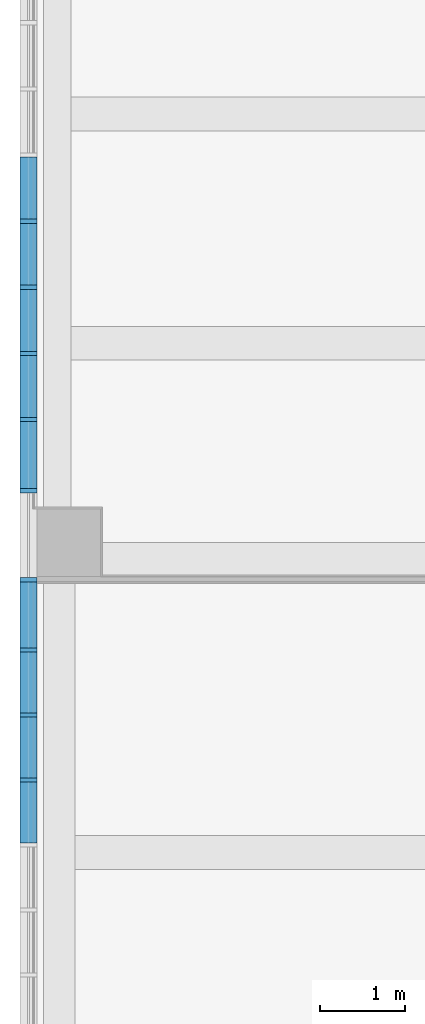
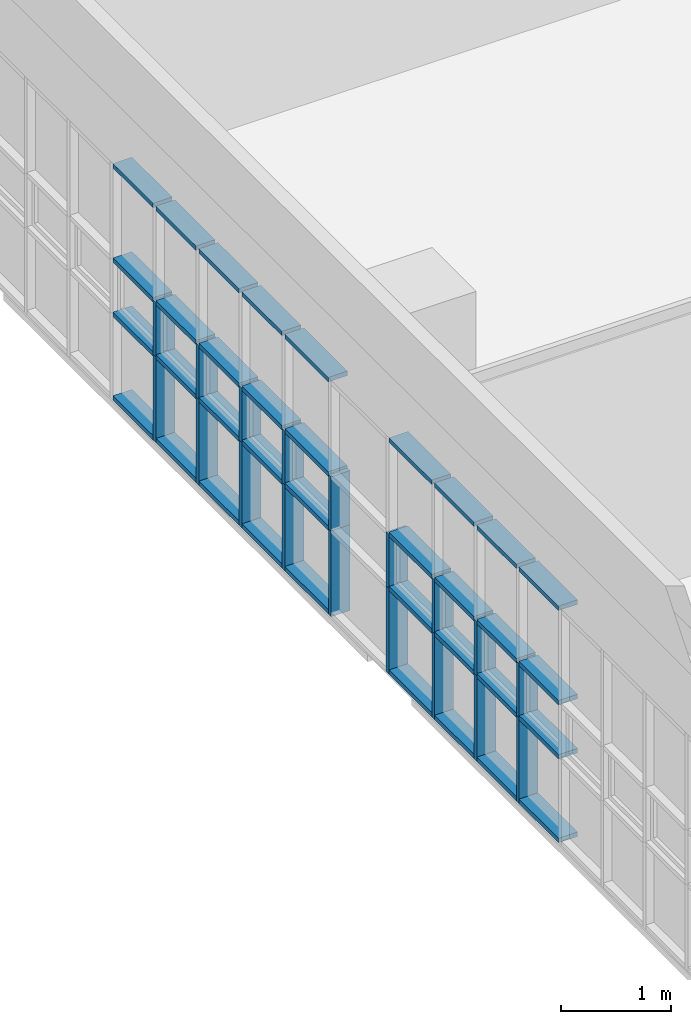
# One storey, part 18 of 76: 54 members, 1 element without a shape of its own.
"""IFC2X3 building model written with IfcOpenShell, lengths in millimetres."""

from ifc_helpers import new_model, entity, si_unit, converted_unit, derived_unit, direction, frame, origin, origin_2d_with_axis, place, context, subcontext, project, spatial, rectangle, extrude, source, transform, mapped, material, type_object, type_shapes, element, aggregate, save


model = new_model("IFC2X3")

# Units and contexts
model_context = context("Model", 3, precision=0.01, world=origin(), true_north=direction((6.123031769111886e-17, 1.0)))
body_context = subcontext(model_context, "Body", "Model", "MODEL_VIEW")
ifc_project = project(units=[si_unit("LENGTHUNIT", "METRE", prefix="MILLI"), si_unit("AREAUNIT", "SQUARE_METRE"), si_unit("VOLUMEUNIT", "CUBIC_METRE"), converted_unit("PLANEANGLEUNIT", "DEGREE", entity("IfcRatioMeasure", 0.017453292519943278), si_unit("PLANEANGLEUNIT", "RADIAN"), dimensions=[0, 0, 0, 0, 0, 0, 0]), si_unit("MASSUNIT", "GRAM", prefix="KILO"), derived_unit("MASSDENSITYUNIT", [(si_unit("MASSUNIT", "GRAM", prefix="KILO"), 1), (si_unit("LENGTHUNIT", "METRE"), -3)]), derived_unit("MOMENTOFINERTIAUNIT", [(si_unit("LENGTHUNIT", "METRE"), 4)]), si_unit("TIMEUNIT", "SECOND"), si_unit("FREQUENCYUNIT", "HERTZ"), si_unit("THERMODYNAMICTEMPERATUREUNIT", "DEGREE_CELSIUS"), derived_unit("THERMALTRANSMITTANCEUNIT", [(si_unit("MASSUNIT", "GRAM", prefix="KILO"), 1), (si_unit("THERMODYNAMICTEMPERATUREUNIT", "KELVIN"), -1), (si_unit("TIMEUNIT", "SECOND"), -3)]), derived_unit("VOLUMETRICFLOWRATEUNIT", [(si_unit("LENGTHUNIT", "METRE"), 3), (si_unit("TIMEUNIT", "SECOND"), -1)]), derived_unit("MASSFLOWRATEUNIT", [(si_unit("MASSUNIT", "GRAM", prefix="KILO"), 1), (si_unit("TIMEUNIT", "SECOND"), -1)]), derived_unit("ROTATIONALFREQUENCYUNIT", [(si_unit("TIMEUNIT", "SECOND"), -1)]), si_unit("ELECTRICCURRENTUNIT", "AMPERE"), si_unit("ELECTRICVOLTAGEUNIT", "VOLT"), si_unit("POWERUNIT", "WATT"), si_unit("FORCEUNIT", "NEWTON", prefix="KILO"), si_unit("ILLUMINANCEUNIT", "LUX"), si_unit("LUMINOUSFLUXUNIT", "LUMEN"), si_unit("LUMINOUSINTENSITYUNIT", "CANDELA"), derived_unit("USERDEFINED", [(si_unit("MASSUNIT", "GRAM", prefix="KILO"), -1), (si_unit("LENGTHUNIT", "METRE"), -2), (si_unit("TIMEUNIT", "SECOND"), 3), (si_unit("LUMINOUSFLUXUNIT", "LUMEN"), 1)]), derived_unit("SOUNDPOWERUNIT", [(si_unit("MASSUNIT", "GRAM", prefix="KILO"), 1), (si_unit("LENGTHUNIT", "METRE"), 2), (si_unit("TIMEUNIT", "SECOND"), -3)]), derived_unit("SOUNDPRESSUREUNIT", [(si_unit("MASSUNIT", "GRAM", prefix="KILO"), 1), (si_unit("LENGTHUNIT", "METRE"), -1), (si_unit("TIMEUNIT", "SECOND"), -2)]), derived_unit("LINEARVELOCITYUNIT", [(si_unit("LENGTHUNIT", "METRE"), 1), (si_unit("TIMEUNIT", "SECOND"), -1)]), si_unit("PRESSUREUNIT", "PASCAL"), derived_unit("USERDEFINED", [(si_unit("LENGTHUNIT", "METRE"), -2), (si_unit("MASSUNIT", "GRAM", prefix="KILO"), 1), (si_unit("TIMEUNIT", "SECOND"), -2)]), derived_unit("LINEARFORCEUNIT", [(si_unit("MASSUNIT", "GRAM", prefix="KILO"), 1), (si_unit("LENGTHUNIT", "METRE"), 1), (si_unit("TIMEUNIT", "SECOND"), -2), (si_unit("LENGTHUNIT", "METRE"), -1)]), derived_unit("PLANARFORCEUNIT", [(si_unit("MASSUNIT", "GRAM", prefix="KILO"), 1), (si_unit("LENGTHUNIT", "METRE"), 1), (si_unit("TIMEUNIT", "SECOND"), -2), (si_unit("LENGTHUNIT", "METRE"), -2)])], contexts=[model_context])

# Site, building, storey
site_placement = place(None, frame((-14167.972527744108, -657.2125860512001, 0.0)))
site = spatial("IfcSite", under=ifc_project, at=site_placement, Name="Default", CompositionType="ELEMENT")
building_placement = place(site_placement, origin())
building = spatial("IfcBuilding", under=site, at=building_placement, Name="Sample Building", CompositionType="ELEMENT")
storey_placement = place(building_placement, frame((0.0, 0.0, 9300.0)))
storey = spatial("IfcBuildingStorey", under=building, at=storey_placement, Name="지상 3층", CompositionType="ELEMENT", Elevation=9300.000000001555)

# Curtain wall, members
curtain_wall_type = type_object("IfcCurtainWallType", Name="커튼월:CW112-스테인리스 스틸 커튼월", PredefinedType="NOTDEFINED")
curtain_wall_placement = place(storey_placement, frame((0.0, 0.0, -9300.0)))
curtain_wall = element("IfcCurtainWall", 1, at=curtain_wall_placement, inside=storey, type_object=curtain_wall_type, Name="커튼월:CW112-스테인리스 스틸 커튼월", ObjectType="커튼월:CW112-스테인리스 스틸 커튼월")
ifc_material = material(Name="<Unnamed>")
member_type_1 = type_object("IfcMemberType", Name="직사각형 멀리언:CW200-직사각형 멀리언 50x200mm", PredefinedType="MULLION", material=ifc_material)
shared_shape_1 = source(origin(), body_context, "Body", "SweptSolid", [
    extrude(rectangle(XDim=200.0, YDim=50.0, at=origin_2d_with_axis()), frame((0.0, 0.0, -600.0), z_axis=(0.0, 0.0, 1.0), x_axis=(0.0, -1.0, 0.0)), (0.0, 0.0, 1.0), 600.0),
])
type_shapes(member_type_1, [shared_shape_1])
member_1_placement = place(curtain_wall_placement, frame((14018.587904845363, 23745.81770709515, 10330.0), z_axis=(0.0, 0.0, -1.0), x_axis=(0.0, -1.0, 0.0)))
member_1 = element("IfcMember", 2, at=member_1_placement, type_object=member_type_1, material=ifc_material, Name="직사각형 멀리언:CW200-직사각형 멀리언 50x200mm", ObjectType="직사각형 멀리언:CW200-직사각형 멀리언 50x200mm", context=body_context, shape_type="MappedRepresentation", body=[
    mapped(shared_shape_1, transform((0.0, 0.0, 0.0), scale=1.0)),
])
member_2_placement = place(curtain_wall_placement, frame((14018.58790484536, 22966.81770709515, 10330.0), z_axis=(0.0, 0.0, -1.0), x_axis=(0.0, -1.0, 0.0)))
member_2 = element("IfcMember", 3, at=member_2_placement, type_object=member_type_1, material=ifc_material, Name="직사각형 멀리언:CW200-직사각형 멀리언 50x200mm", ObjectType="직사각형 멀리언:CW200-직사각형 멀리언 50x200mm", context=body_context, shape_type="MappedRepresentation", body=[
    mapped(shared_shape_1, transform((0.0, 0.0, 0.0), scale=1.0)),
])
member_3_placement = place(curtain_wall_placement, frame((14018.587904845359, 22187.81770709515, 10330.0), z_axis=(0.0, 0.0, -1.0), x_axis=(0.0, -1.0, 0.0)))
member_3 = element("IfcMember", 4, at=member_3_placement, type_object=member_type_1, material=ifc_material, Name="직사각형 멀리언:CW200-직사각형 멀리언 50x200mm", ObjectType="직사각형 멀리언:CW200-직사각형 멀리언 50x200mm", context=body_context, shape_type="MappedRepresentation", body=[
    mapped(shared_shape_1, transform((0.0, 0.0, 0.0), scale=1.0)),
])
member_4_placement = place(curtain_wall_placement, frame((14018.587904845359, 21408.817707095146, 10330.0), z_axis=(0.0, 0.0, -1.0), x_axis=(0.0, -1.0, 0.0)))
member_4 = element("IfcMember", 5, at=member_4_placement, type_object=member_type_1, material=ifc_material, Name="직사각형 멀리언:CW200-직사각형 멀리언 50x200mm", ObjectType="직사각형 멀리언:CW200-직사각형 멀리언 50x200mm", context=body_context, shape_type="MappedRepresentation", body=[
    mapped(shared_shape_1, transform((0.0, 0.0, 0.0), scale=1.0)),
])
member_5_placement = place(curtain_wall_placement, frame((14018.587904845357, 20569.817707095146, 10330.0), z_axis=(0.0, 0.0, -1.0), x_axis=(0.0, -1.0, 0.0)))
member_5 = element("IfcMember", 6, at=member_5_placement, type_object=member_type_1, material=ifc_material, Name="직사각형 멀리언:CW200-직사각형 멀리언 50x200mm", ObjectType="직사각형 멀리언:CW200-직사각형 멀리언 50x200mm", context=body_context, shape_type="MappedRepresentation", body=[
    mapped(shared_shape_1, transform((0.0, 0.0, 0.0), scale=1.0)),
])
member_6_placement = place(curtain_wall_placement, frame((14018.587904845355, 18693.817707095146, 10330.0), z_axis=(0.0, 0.0, -1.0), x_axis=(0.0, -1.0, 0.0)))
member_6 = element("IfcMember", 7, at=member_6_placement, type_object=member_type_1, material=ifc_material, Name="직사각형 멀리언:CW200-직사각형 멀리언 50x200mm", ObjectType="직사각형 멀리언:CW200-직사각형 멀리언 50x200mm", context=body_context, shape_type="MappedRepresentation", body=[
    mapped(shared_shape_1, transform((0.0, 0.0, 0.0), scale=1.0)),
])
member_7_placement = place(curtain_wall_placement, frame((14018.587904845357, 19519.817707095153, 10330.0), z_axis=(0.0, 0.0, -1.0), x_axis=(0.0, -1.0, 0.0)))
member_7 = element("IfcMember", 8, at=member_7_placement, type_object=member_type_1, material=ifc_material, Name="직사각형 멀리언:CW200-직사각형 멀리언 50x200mm", ObjectType="직사각형 멀리언:CW200-직사각형 멀리언 50x200mm", context=body_context, shape_type="MappedRepresentation", body=[
    mapped(shared_shape_1, transform((0.0, 0.0, 0.0), scale=1.0)),
])
member_8_placement = place(curtain_wall_placement, frame((14018.587904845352, 17927.81770709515, 10330.0), z_axis=(0.0, 0.0, -1.0), x_axis=(0.0, -1.0, 0.0)))
member_8 = element("IfcMember", 9, at=member_8_placement, type_object=member_type_1, material=ifc_material, Name="직사각형 멀리언:CW200-직사각형 멀리언 50x200mm", ObjectType="직사각형 멀리언:CW200-직사각형 멀리언 50x200mm", context=body_context, shape_type="MappedRepresentation", body=[
    mapped(shared_shape_1, transform((0.0, 0.0, 0.0), scale=1.0)),
])
member_9_placement = place(curtain_wall_placement, frame((14018.587904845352, 17161.81770709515, 10330.0), z_axis=(0.0, 0.0, -1.0), x_axis=(0.0, -1.0, 0.0)))
member_9 = element("IfcMember", 10, at=member_9_placement, type_object=member_type_1, material=ifc_material, Name="직사각형 멀리언:CW200-직사각형 멀리언 50x200mm", ObjectType="직사각형 멀리언:CW200-직사각형 멀리언 50x200mm", context=body_context, shape_type="MappedRepresentation", body=[
    mapped(shared_shape_1, transform((0.0, 0.0, 0.0), scale=1.0)),
])
member_type_2 = type_object("IfcMemberType", Name="직사각형 멀리언:CW200-직사각형 멀리언 50x200mm", PredefinedType="MULLION", material=ifc_material)
shared_shape_2 = source(origin(), body_context, "Body", "SweptSolid", [
    extrude(rectangle(XDim=200.0, YDim=50.0, at=origin_2d_with_axis()), frame((0.0, 0.0, -950.0), z_axis=(0.0, 0.0, 1.0), x_axis=(0.0, -1.0, 0.0)), (0.0, 0.0, 1.0), 949.9999999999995),
])
type_shapes(member_type_2, [shared_shape_2])
member_10_placement = place(curtain_wall_placement, frame((14018.587904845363, 23745.817707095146, 9380.0), z_axis=(0.0, 0.0, -1.0), x_axis=(0.0, -1.0, 0.0)))
member_10 = element("IfcMember", 11, at=member_10_placement, type_object=member_type_2, material=ifc_material, Name="직사각형 멀리언:CW200-직사각형 멀리언 50x200mm", ObjectType="직사각형 멀리언:CW200-직사각형 멀리언 50x200mm", context=body_context, shape_type="MappedRepresentation", body=[
    mapped(shared_shape_2, transform((0.0, 0.0, 0.0), scale=1.0)),
])
member_11_placement = place(curtain_wall_placement, frame((14018.58790484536, 22966.817707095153, 9380.0), z_axis=(0.0, 0.0, -1.0), x_axis=(0.0, -1.0, 0.0)))
member_11 = element("IfcMember", 12, at=member_11_placement, type_object=member_type_2, material=ifc_material, Name="직사각형 멀리언:CW200-직사각형 멀리언 50x200mm", ObjectType="직사각형 멀리언:CW200-직사각형 멀리언 50x200mm", context=body_context, shape_type="MappedRepresentation", body=[
    mapped(shared_shape_2, transform((0.0, 0.0, 0.0), scale=1.0)),
])
member_12_placement = place(curtain_wall_placement, frame((14018.587904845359, 22187.817707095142, 9380.0), z_axis=(0.0, 0.0, -1.0), x_axis=(0.0, -1.0, 0.0)))
member_12 = element("IfcMember", 13, at=member_12_placement, type_object=member_type_2, material=ifc_material, Name="직사각형 멀리언:CW200-직사각형 멀리언 50x200mm", ObjectType="직사각형 멀리언:CW200-직사각형 멀리언 50x200mm", context=body_context, shape_type="MappedRepresentation", body=[
    mapped(shared_shape_2, transform((0.0, 0.0, 0.0), scale=1.0)),
])
member_13_placement = place(curtain_wall_placement, frame((14018.587904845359, 21408.817707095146, 9380.0), z_axis=(0.0, 0.0, -1.0), x_axis=(0.0, -1.0, 0.0)))
member_13 = element("IfcMember", 14, at=member_13_placement, type_object=member_type_2, material=ifc_material, Name="직사각형 멀리언:CW200-직사각형 멀리언 50x200mm", ObjectType="직사각형 멀리언:CW200-직사각형 멀리언 50x200mm", context=body_context, shape_type="MappedRepresentation", body=[
    mapped(shared_shape_2, transform((0.0, 0.0, 0.0), scale=1.0)),
])
member_14_placement = place(curtain_wall_placement, frame((14018.587904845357, 20569.817707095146, 9380.0), z_axis=(0.0, 0.0, -1.0), x_axis=(0.0, -1.0, 0.0)))
member_14 = element("IfcMember", 15, at=member_14_placement, type_object=member_type_2, material=ifc_material, Name="직사각형 멀리언:CW200-직사각형 멀리언 50x200mm", ObjectType="직사각형 멀리언:CW200-직사각형 멀리언 50x200mm", context=body_context, shape_type="MappedRepresentation", body=[
    mapped(shared_shape_2, transform((0.0, 0.0, 0.0), scale=1.0)),
])
member_15_placement = place(curtain_wall_placement, frame((14018.587904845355, 18693.817707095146, 9380.0), z_axis=(0.0, 0.0, -1.0), x_axis=(0.0, -1.0, 0.0)))
member_15 = element("IfcMember", 16, at=member_15_placement, type_object=member_type_2, material=ifc_material, Name="직사각형 멀리언:CW200-직사각형 멀리언 50x200mm", ObjectType="직사각형 멀리언:CW200-직사각형 멀리언 50x200mm", context=body_context, shape_type="MappedRepresentation", body=[
    mapped(shared_shape_2, transform((0.0, 0.0, 0.0), scale=1.0)),
])
member_16_placement = place(curtain_wall_placement, frame((14018.587904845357, 19519.817707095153, 9380.0), z_axis=(0.0, 0.0, -1.0), x_axis=(0.0, -1.0, 0.0)))
member_16 = element("IfcMember", 17, at=member_16_placement, type_object=member_type_2, material=ifc_material, Name="직사각형 멀리언:CW200-직사각형 멀리언 50x200mm", ObjectType="직사각형 멀리언:CW200-직사각형 멀리언 50x200mm", context=body_context, shape_type="MappedRepresentation", body=[
    mapped(shared_shape_2, transform((0.0, 0.0, 0.0), scale=1.0)),
])
member_17_placement = place(curtain_wall_placement, frame((14018.587904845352, 17927.81770709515, 9380.0), z_axis=(0.0, 0.0, -1.0), x_axis=(0.0, -1.0, 0.0)))
member_17 = element("IfcMember", 18, at=member_17_placement, type_object=member_type_2, material=ifc_material, Name="직사각형 멀리언:CW200-직사각형 멀리언 50x200mm", ObjectType="직사각형 멀리언:CW200-직사각형 멀리언 50x200mm", context=body_context, shape_type="MappedRepresentation", body=[
    mapped(shared_shape_2, transform((0.0, 0.0, 0.0), scale=1.0)),
])
member_18_placement = place(curtain_wall_placement, frame((14018.587904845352, 17161.81770709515, 9380.0), z_axis=(0.0, 0.0, -1.0), x_axis=(0.0, -1.0, 0.0)))
member_18 = element("IfcMember", 19, at=member_18_placement, type_object=member_type_2, material=ifc_material, Name="직사각형 멀리언:CW200-직사각형 멀리언 50x200mm", ObjectType="직사각형 멀리언:CW200-직사각형 멀리언 50x200mm", context=body_context, shape_type="MappedRepresentation", body=[
    mapped(shared_shape_2, transform((0.0, 0.0, 0.0), scale=1.0)),
])
member_type_3 = type_object("IfcMemberType", Name="직사각형 멀리언:CW200-직사각형 멀리언 50x200mm", PredefinedType="MULLION", material=ifc_material)
shared_shape_3 = source(origin(), body_context, "Body", "SweptSolid", [
    extrude(rectangle(XDim=200.0, YDim=50.0, at=origin_2d_with_axis()), frame((-25.0, 0.0, -789.0), z_axis=(0.0, 0.0, 1.0), x_axis=(0.0, -1.0, 0.0)), (0.0, 0.0, 1.0), 789.0000000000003),
])
type_shapes(member_type_3, [shared_shape_3])
member_19_placement = place(curtain_wall_placement, frame((14018.587904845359, 21383.81770709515, 9380.0), z_axis=(0.0, 1.0, 0.0), x_axis=(0.0, 0.0, -1.0)))
member_19 = element("IfcMember", 20, at=member_19_placement, type_object=member_type_3, material=ifc_material, Name="직사각형 멀리언:CW200-직사각형 멀리언 50x200mm", ObjectType="직사각형 멀리언:CW200-직사각형 멀리언 50x200mm", context=body_context, shape_type="MappedRepresentation", body=[
    mapped(shared_shape_3, transform((0.0, 0.0, 0.0), scale=1.0)),
])
member_type_4 = type_object("IfcMemberType", Name="직사각형 멀리언:CW200-직사각형 멀리언 50x200mm", PredefinedType="MULLION", material=ifc_material)
shared_shape_4 = source(origin(), body_context, "Body", "SweptSolid", [
    extrude(rectangle(XDim=200.0, YDim=50.0, at=origin_2d_with_axis()), frame((0.0, 0.0, -789.0), z_axis=(0.0, 0.0, 1.0), x_axis=(0.0, -1.0, 0.0)), (0.0, 0.0, 1.0), 788.9999999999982),
])
type_shapes(member_type_4, [shared_shape_4])
member_20_placement = place(curtain_wall_placement, frame((14018.587904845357, 20594.817707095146, 10330.0), z_axis=(0.0, -1.0, 0.0), x_axis=(0.0, 0.0, 1.0)))
member_20 = element("IfcMember", 21, at=member_20_placement, type_object=member_type_4, material=ifc_material, Name="직사각형 멀리언:CW200-직사각형 멀리언 50x200mm", ObjectType="직사각형 멀리언:CW200-직사각형 멀리언 50x200mm", context=body_context, shape_type="MappedRepresentation", body=[
    mapped(shared_shape_4, transform((0.0, 0.0, 0.0), scale=1.0)),
])
member_21_placement = place(curtain_wall_placement, frame((14018.587904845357, 20594.817707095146, 10930.0), z_axis=(0.0, -1.0, 0.0), x_axis=(0.0, 0.0, 1.0)))
member_21 = element("IfcMember", 22, at=member_21_placement, type_object=member_type_4, material=ifc_material, Name="직사각형 멀리언:CW200-직사각형 멀리언 50x200mm", ObjectType="직사각형 멀리언:CW200-직사각형 멀리언 50x200mm", context=body_context, shape_type="MappedRepresentation", body=[
    mapped(shared_shape_4, transform((0.0, 0.0, 0.0), scale=1.0)),
])
member_type_5 = type_object("IfcMemberType", Name="직사각형 멀리언:CW200-직사각형 멀리언 50x200mm", PredefinedType="MULLION", material=ifc_material)
shared_shape_5 = source(origin(), body_context, "Body", "SweptSolid", [
    extrude(rectangle(XDim=200.0, YDim=50.0, at=origin_2d_with_axis()), frame((-25.0, 0.0, -789.0), z_axis=(0.0, 0.0, 1.0), x_axis=(0.0, -1.0, 0.0)), (0.0, 0.0, 1.0), 788.9999999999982),
])
type_shapes(member_type_5, [shared_shape_5])
member_22_placement = place(curtain_wall_placement, frame((14018.587904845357, 20594.817707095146, 12000.0), z_axis=(0.0, -1.0, 0.0), x_axis=(0.0, 0.0, 1.0)))
member_22 = element("IfcMember", 23, at=member_22_placement, type_object=member_type_5, material=ifc_material, Name="직사각형 멀리언:CW200-직사각형 멀리언 50x200mm", ObjectType="직사각형 멀리언:CW200-직사각형 멀리언 50x200mm", context=body_context, shape_type="MappedRepresentation", body=[
    mapped(shared_shape_5, transform((0.0, 0.0, 0.0), scale=1.0)),
])
member_type_6 = type_object("IfcMemberType", Name="직사각형 멀리언:CW200-직사각형 멀리언 50x200mm", PredefinedType="MULLION", material=ifc_material)
shared_shape_6 = source(origin(), body_context, "Body", "SweptSolid", [
    extrude(rectangle(XDim=200.0, YDim=50.0, at=origin_2d_with_axis()), frame((-25.0, 0.0, -729.0), z_axis=(0.0, 0.0, 1.0), x_axis=(0.0, -1.0, 0.0)), (0.0, 0.0, 1.0), 729.000000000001),
])
type_shapes(member_type_6, [shared_shape_6])
member_23_placement = place(curtain_wall_placement, frame((14018.587904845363, 24499.81770709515, 9380.0), z_axis=(0.0, 1.0, 0.0), x_axis=(0.0, 0.0, -1.0)))
member_23 = element("IfcMember", 24, at=member_23_placement, type_object=member_type_6, material=ifc_material, Name="직사각형 멀리언:CW200-직사각형 멀리언 50x200mm", ObjectType="직사각형 멀리언:CW200-직사각형 멀리언 50x200mm", context=body_context, shape_type="MappedRepresentation", body=[
    mapped(shared_shape_6, transform((0.0, 0.0, 0.0), scale=1.0)),
])
member_24_placement = place(curtain_wall_placement, frame((14018.587904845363, 23720.817707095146, 9380.0), z_axis=(0.0, 1.0, 0.0), x_axis=(0.0, 0.0, -1.0)))
member_24 = element("IfcMember", 25, at=member_24_placement, type_object=member_type_6, material=ifc_material, Name="직사각형 멀리언:CW200-직사각형 멀리언 50x200mm", ObjectType="직사각형 멀리언:CW200-직사각형 멀리언 50x200mm", context=body_context, shape_type="MappedRepresentation", body=[
    mapped(shared_shape_6, transform((0.0, 0.0, 0.0), scale=1.0)),
])
member_25_placement = place(curtain_wall_placement, frame((14018.58790484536, 22941.817707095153, 9380.0), z_axis=(0.0, 1.0, 0.0), x_axis=(0.0, 0.0, -1.0)))
member_25 = element("IfcMember", 26, at=member_25_placement, type_object=member_type_6, material=ifc_material, Name="직사각형 멀리언:CW200-직사각형 멀리언 50x200mm", ObjectType="직사각형 멀리언:CW200-직사각형 멀리언 50x200mm", context=body_context, shape_type="MappedRepresentation", body=[
    mapped(shared_shape_6, transform((0.0, 0.0, 0.0), scale=1.0)),
])
member_26_placement = place(curtain_wall_placement, frame((14018.587904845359, 22162.817707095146, 9380.0), z_axis=(0.0, 1.0, 0.0), x_axis=(0.0, 0.0, -1.0)))
member_26 = element("IfcMember", 27, at=member_26_placement, type_object=member_type_6, material=ifc_material, Name="직사각형 멀리언:CW200-직사각형 멀리언 50x200mm", ObjectType="직사각형 멀리언:CW200-직사각형 멀리언 50x200mm", context=body_context, shape_type="MappedRepresentation", body=[
    mapped(shared_shape_6, transform((0.0, 0.0, 0.0), scale=1.0)),
])
member_type_7 = type_object("IfcMemberType", Name="직사각형 멀리언:CW200-직사각형 멀리언 50x200mm", PredefinedType="MULLION", material=ifc_material)
shared_shape_7 = source(origin(), body_context, "Body", "SweptSolid", [
    extrude(rectangle(XDim=200.0, YDim=50.0, at=origin_2d_with_axis()), frame((0.0, 0.0, -729.0), z_axis=(0.0, 0.0, 1.0), x_axis=(0.0, -1.0, 0.0)), (0.0, 0.0, 1.0), 728.9999999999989),
])
type_shapes(member_type_7, [shared_shape_7])
member_27_placement = place(curtain_wall_placement, frame((14018.587904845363, 23770.817707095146, 10330.0), z_axis=(0.0, -1.0, 0.0), x_axis=(0.0, 0.0, 1.0)))
member_27 = element("IfcMember", 28, at=member_27_placement, type_object=member_type_7, material=ifc_material, Name="직사각형 멀리언:CW200-직사각형 멀리언 50x200mm", ObjectType="직사각형 멀리언:CW200-직사각형 멀리언 50x200mm", context=body_context, shape_type="MappedRepresentation", body=[
    mapped(shared_shape_7, transform((0.0, 0.0, 0.0), scale=1.0)),
])
member_28_placement = place(curtain_wall_placement, frame((14018.587904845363, 23770.817707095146, 10930.0), z_axis=(0.0, -1.0, 0.0), x_axis=(0.0, 0.0, 1.0)))
member_28 = element("IfcMember", 29, at=member_28_placement, type_object=member_type_7, material=ifc_material, Name="직사각형 멀리언:CW200-직사각형 멀리언 50x200mm", ObjectType="직사각형 멀리언:CW200-직사각형 멀리언 50x200mm", context=body_context, shape_type="MappedRepresentation", body=[
    mapped(shared_shape_7, transform((0.0, 0.0, 0.0), scale=1.0)),
])
member_29_placement = place(curtain_wall_placement, frame((14018.58790484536, 22991.817707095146, 10330.0), z_axis=(0.0, -1.0, 0.0), x_axis=(0.0, 0.0, 1.0)))
member_29 = element("IfcMember", 30, at=member_29_placement, type_object=member_type_7, material=ifc_material, Name="직사각형 멀리언:CW200-직사각형 멀리언 50x200mm", ObjectType="직사각형 멀리언:CW200-직사각형 멀리언 50x200mm", context=body_context, shape_type="MappedRepresentation", body=[
    mapped(shared_shape_7, transform((0.0, 0.0, 0.0), scale=1.0)),
])
member_30_placement = place(curtain_wall_placement, frame((14018.58790484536, 22991.817707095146, 10930.0), z_axis=(0.0, -1.0, 0.0), x_axis=(0.0, 0.0, 1.0)))
member_30 = element("IfcMember", 31, at=member_30_placement, type_object=member_type_7, material=ifc_material, Name="직사각형 멀리언:CW200-직사각형 멀리언 50x200mm", ObjectType="직사각형 멀리언:CW200-직사각형 멀리언 50x200mm", context=body_context, shape_type="MappedRepresentation", body=[
    mapped(shared_shape_7, transform((0.0, 0.0, 0.0), scale=1.0)),
])
member_31_placement = place(curtain_wall_placement, frame((14018.587904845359, 22212.817707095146, 10330.0), z_axis=(0.0, -1.0, 0.0), x_axis=(0.0, 0.0, 1.0)))
member_31 = element("IfcMember", 32, at=member_31_placement, type_object=member_type_7, material=ifc_material, Name="직사각형 멀리언:CW200-직사각형 멀리언 50x200mm", ObjectType="직사각형 멀리언:CW200-직사각형 멀리언 50x200mm", context=body_context, shape_type="MappedRepresentation", body=[
    mapped(shared_shape_7, transform((0.0, 0.0, 0.0), scale=1.0)),
])
member_32_placement = place(curtain_wall_placement, frame((14018.587904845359, 22212.817707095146, 10930.0), z_axis=(0.0, -1.0, 0.0), x_axis=(0.0, 0.0, 1.0)))
member_32 = element("IfcMember", 33, at=member_32_placement, type_object=member_type_7, material=ifc_material, Name="직사각형 멀리언:CW200-직사각형 멀리언 50x200mm", ObjectType="직사각형 멀리언:CW200-직사각형 멀리언 50x200mm", context=body_context, shape_type="MappedRepresentation", body=[
    mapped(shared_shape_7, transform((0.0, 0.0, 0.0), scale=1.0)),
])
member_33_placement = place(curtain_wall_placement, frame((14018.587904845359, 21433.817707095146, 10330.0), z_axis=(0.0, -1.0, 0.0), x_axis=(0.0, 0.0, 1.0)))
member_33 = element("IfcMember", 34, at=member_33_placement, type_object=member_type_7, material=ifc_material, Name="직사각형 멀리언:CW200-직사각형 멀리언 50x200mm", ObjectType="직사각형 멀리언:CW200-직사각형 멀리언 50x200mm", context=body_context, shape_type="MappedRepresentation", body=[
    mapped(shared_shape_7, transform((0.0, 0.0, 0.0), scale=1.0)),
])
member_34_placement = place(curtain_wall_placement, frame((14018.587904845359, 21433.817707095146, 10930.0), z_axis=(0.0, -1.0, 0.0), x_axis=(0.0, 0.0, 1.0)))
member_34 = element("IfcMember", 35, at=member_34_placement, type_object=member_type_7, material=ifc_material, Name="직사각형 멀리언:CW200-직사각형 멀리언 50x200mm", ObjectType="직사각형 멀리언:CW200-직사각형 멀리언 50x200mm", context=body_context, shape_type="MappedRepresentation", body=[
    mapped(shared_shape_7, transform((0.0, 0.0, 0.0), scale=1.0)),
])
member_type_8 = type_object("IfcMemberType", Name="직사각형 멀리언:CW200-직사각형 멀리언 50x200mm", PredefinedType="MULLION", material=ifc_material)
shared_shape_8 = source(origin(), body_context, "Body", "SweptSolid", [
    extrude(rectangle(XDim=200.0, YDim=50.0, at=origin_2d_with_axis()), frame((-25.0, 0.0, -729.0), z_axis=(0.0, 0.0, 1.0), x_axis=(0.0, -1.0, 0.0)), (0.0, 0.0, 1.0), 728.9999999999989),
])
type_shapes(member_type_8, [shared_shape_8])
member_35_placement = place(curtain_wall_placement, frame((14018.587904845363, 23770.817707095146, 12000.0), z_axis=(0.0, -1.0, 0.0), x_axis=(0.0, 0.0, 1.0)))
member_35 = element("IfcMember", 36, at=member_35_placement, type_object=member_type_8, material=ifc_material, Name="직사각형 멀리언:CW200-직사각형 멀리언 50x200mm", ObjectType="직사각형 멀리언:CW200-직사각형 멀리언 50x200mm", context=body_context, shape_type="MappedRepresentation", body=[
    mapped(shared_shape_8, transform((0.0, 0.0, 0.0), scale=1.0)),
])
member_36_placement = place(curtain_wall_placement, frame((14018.58790484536, 22991.817707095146, 12000.0), z_axis=(0.0, -1.0, 0.0), x_axis=(0.0, 0.0, 1.0)))
member_36 = element("IfcMember", 37, at=member_36_placement, type_object=member_type_8, material=ifc_material, Name="직사각형 멀리언:CW200-직사각형 멀리언 50x200mm", ObjectType="직사각형 멀리언:CW200-직사각형 멀리언 50x200mm", context=body_context, shape_type="MappedRepresentation", body=[
    mapped(shared_shape_8, transform((0.0, 0.0, 0.0), scale=1.0)),
])
member_37_placement = place(curtain_wall_placement, frame((14018.587904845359, 22212.817707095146, 12000.0), z_axis=(0.0, -1.0, 0.0), x_axis=(0.0, 0.0, 1.0)))
member_37 = element("IfcMember", 38, at=member_37_placement, type_object=member_type_8, material=ifc_material, Name="직사각형 멀리언:CW200-직사각형 멀리언 50x200mm", ObjectType="직사각형 멀리언:CW200-직사각형 멀리언 50x200mm", context=body_context, shape_type="MappedRepresentation", body=[
    mapped(shared_shape_8, transform((0.0, 0.0, 0.0), scale=1.0)),
])
member_38_placement = place(curtain_wall_placement, frame((14018.587904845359, 21433.817707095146, 12000.0), z_axis=(0.0, -1.0, 0.0), x_axis=(0.0, 0.0, 1.0)))
member_38 = element("IfcMember", 39, at=member_38_placement, type_object=member_type_8, material=ifc_material, Name="직사각형 멀리언:CW200-직사각형 멀리언 50x200mm", ObjectType="직사각형 멀리언:CW200-직사각형 멀리언 50x200mm", context=body_context, shape_type="MappedRepresentation", body=[
    mapped(shared_shape_8, transform((0.0, 0.0, 0.0), scale=1.0)),
])
member_type_9 = type_object("IfcMemberType", Name="직사각형 멀리언:CW200-직사각형 멀리언 50x200mm", PredefinedType="MULLION", material=ifc_material)
shared_shape_9 = source(origin(), body_context, "Body", "SweptSolid", [
    extrude(rectangle(XDim=200.0, YDim=50.0, at=origin_2d_with_axis()), frame((-25.0, 0.0, -776.0), z_axis=(0.0, 0.0, 1.0), x_axis=(0.0, -1.0, 0.0)), (0.0, 0.0, 1.0), 776.0000000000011),
])
type_shapes(member_type_9, [shared_shape_9])
member_39_placement = place(curtain_wall_placement, frame((14018.587904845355, 18718.817707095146, 12000.0), z_axis=(0.0, -1.0, 0.0), x_axis=(0.0, 0.0, 1.0)))
member_39 = element("IfcMember", 40, at=member_39_placement, type_object=member_type_9, material=ifc_material, Name="직사각형 멀리언:CW200-직사각형 멀리언 50x200mm", ObjectType="직사각형 멀리언:CW200-직사각형 멀리언 50x200mm", context=body_context, shape_type="MappedRepresentation", body=[
    mapped(shared_shape_9, transform((0.0, 0.0, 0.0), scale=1.0)),
])
member_type_10 = type_object("IfcMemberType", Name="직사각형 멀리언:CW200-직사각형 멀리언 50x200mm", PredefinedType="MULLION", material=ifc_material)
shared_shape_10 = source(origin(), body_context, "Body", "SweptSolid", [
    extrude(rectangle(XDim=200.0, YDim=50.0, at=origin_2d_with_axis()), frame((-25.0, 0.0, -716.0), z_axis=(0.0, 0.0, 1.0), x_axis=(0.0, -1.0, 0.0)), (0.0, 0.0, 1.0), 715.9999999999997),
])
type_shapes(member_type_10, [shared_shape_10])
member_40_placement = place(curtain_wall_placement, frame((14018.587904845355, 18668.817707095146, 9380.0), z_axis=(0.0, 1.0, 0.0), x_axis=(0.0, 0.0, -1.0)))
member_40 = element("IfcMember", 41, at=member_40_placement, type_object=member_type_10, material=ifc_material, Name="직사각형 멀리언:CW200-직사각형 멀리언 50x200mm", ObjectType="직사각형 멀리언:CW200-직사각형 멀리언 50x200mm", context=body_context, shape_type="MappedRepresentation", body=[
    mapped(shared_shape_10, transform((0.0, 0.0, 0.0), scale=1.0)),
])
member_41_placement = place(curtain_wall_placement, frame((14018.587904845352, 17902.817707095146, 9380.0), z_axis=(0.0, 1.0, 0.0), x_axis=(0.0, 0.0, -1.0)))
member_41 = element("IfcMember", 42, at=member_41_placement, type_object=member_type_10, material=ifc_material, Name="직사각형 멀리언:CW200-직사각형 멀리언 50x200mm", ObjectType="직사각형 멀리언:CW200-직사각형 멀리언 50x200mm", context=body_context, shape_type="MappedRepresentation", body=[
    mapped(shared_shape_10, transform((0.0, 0.0, 0.0), scale=1.0)),
])
member_42_placement = place(curtain_wall_placement, frame((14018.587904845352, 17136.81770709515, 9380.0), z_axis=(0.0, 1.0, 0.0), x_axis=(0.0, 0.0, -1.0)))
member_42 = element("IfcMember", 43, at=member_42_placement, type_object=member_type_10, material=ifc_material, Name="직사각형 멀리언:CW200-직사각형 멀리언 50x200mm", ObjectType="직사각형 멀리언:CW200-직사각형 멀리언 50x200mm", context=body_context, shape_type="MappedRepresentation", body=[
    mapped(shared_shape_10, transform((0.0, 0.0, 0.0), scale=1.0)),
])
member_type_11 = type_object("IfcMemberType", Name="직사각형 멀리언:CW200-직사각형 멀리언 50x200mm", PredefinedType="MULLION", material=ifc_material)
shared_shape_11 = source(origin(), body_context, "Body", "SweptSolid", [
    extrude(rectangle(XDim=200.0, YDim=50.0, at=origin_2d_with_axis()), frame((0.0, 0.0, -716.0), z_axis=(0.0, 0.0, 1.0), x_axis=(0.0, -1.0, 0.0)), (0.0, 0.0, 1.0), 715.9999999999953),
])
type_shapes(member_type_11, [shared_shape_11])
member_43_placement = place(curtain_wall_placement, frame((14018.587904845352, 17952.81770709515, 10330.0), z_axis=(0.0, -1.0, 0.0), x_axis=(0.0, 0.0, 1.0)))
member_43 = element("IfcMember", 44, at=member_43_placement, type_object=member_type_11, material=ifc_material, Name="직사각형 멀리언:CW200-직사각형 멀리언 50x200mm", ObjectType="직사각형 멀리언:CW200-직사각형 멀리언 50x200mm", context=body_context, shape_type="MappedRepresentation", body=[
    mapped(shared_shape_11, transform((0.0, 0.0, 0.0), scale=1.0)),
])
member_44_placement = place(curtain_wall_placement, frame((14018.587904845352, 17952.81770709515, 10930.0), z_axis=(0.0, -1.0, 0.0), x_axis=(0.0, 0.0, 1.0)))
member_44 = element("IfcMember", 45, at=member_44_placement, type_object=member_type_11, material=ifc_material, Name="직사각형 멀리언:CW200-직사각형 멀리언 50x200mm", ObjectType="직사각형 멀리언:CW200-직사각형 멀리언 50x200mm", context=body_context, shape_type="MappedRepresentation", body=[
    mapped(shared_shape_11, transform((0.0, 0.0, 0.0), scale=1.0)),
])
member_45_placement = place(curtain_wall_placement, frame((14018.587904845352, 17186.817707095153, 10330.0), z_axis=(0.0, -1.0, 0.0), x_axis=(0.0, 0.0, 1.0)))
member_45 = element("IfcMember", 46, at=member_45_placement, type_object=member_type_11, material=ifc_material, Name="직사각형 멀리언:CW200-직사각형 멀리언 50x200mm", ObjectType="직사각형 멀리언:CW200-직사각형 멀리언 50x200mm", context=body_context, shape_type="MappedRepresentation", body=[
    mapped(shared_shape_11, transform((0.0, 0.0, 0.0), scale=1.0)),
])
member_46_placement = place(curtain_wall_placement, frame((14018.587904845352, 17186.817707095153, 10930.0), z_axis=(0.0, -1.0, 0.0), x_axis=(0.0, 0.0, 1.0)))
member_46 = element("IfcMember", 47, at=member_46_placement, type_object=member_type_11, material=ifc_material, Name="직사각형 멀리언:CW200-직사각형 멀리언 50x200mm", ObjectType="직사각형 멀리언:CW200-직사각형 멀리언 50x200mm", context=body_context, shape_type="MappedRepresentation", body=[
    mapped(shared_shape_11, transform((0.0, 0.0, 0.0), scale=1.0)),
])
member_47_placement = place(curtain_wall_placement, frame((14018.58790484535, 16420.817707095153, 10330.0), z_axis=(0.0, -1.0, 0.0), x_axis=(0.0, 0.0, 1.0)))
member_47 = element("IfcMember", 48, at=member_47_placement, type_object=member_type_11, material=ifc_material, Name="직사각형 멀리언:CW200-직사각형 멀리언 50x200mm", ObjectType="직사각형 멀리언:CW200-직사각형 멀리언 50x200mm", context=body_context, shape_type="MappedRepresentation", body=[
    mapped(shared_shape_11, transform((0.0, 0.0, 0.0), scale=1.0)),
])
member_48_placement = place(curtain_wall_placement, frame((14018.58790484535, 16420.81770709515, 10930.0), z_axis=(0.0, -1.0, 0.0), x_axis=(0.0, 0.0, 1.0)))
member_48 = element("IfcMember", 49, at=member_48_placement, type_object=member_type_11, material=ifc_material, Name="직사각형 멀리언:CW200-직사각형 멀리언 50x200mm", ObjectType="직사각형 멀리언:CW200-직사각형 멀리언 50x200mm", context=body_context, shape_type="MappedRepresentation", body=[
    mapped(shared_shape_11, transform((0.0, 0.0, 0.0), scale=1.0)),
])
member_type_12 = type_object("IfcMemberType", Name="직사각형 멀리언:CW200-직사각형 멀리언 50x200mm", PredefinedType="MULLION", material=ifc_material)
shared_shape_12 = source(origin(), body_context, "Body", "SweptSolid", [
    extrude(rectangle(XDim=200.0, YDim=50.0, at=origin_2d_with_axis()), frame((-25.0, 0.0, -776.0), z_axis=(0.0, 0.0, 1.0), x_axis=(0.0, -1.0, 0.0)), (0.0, 0.0, 1.0), 776.0000000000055),
])
type_shapes(member_type_12, [shared_shape_12])
member_49_placement = place(curtain_wall_placement, frame((14018.587904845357, 19494.817707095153, 9380.0), z_axis=(0.0, 1.0, 0.0), x_axis=(0.0, 0.0, -1.0)))
member_49 = element("IfcMember", 50, at=member_49_placement, type_object=member_type_12, material=ifc_material, Name="직사각형 멀리언:CW200-직사각형 멀리언 50x200mm", ObjectType="직사각형 멀리언:CW200-직사각형 멀리언 50x200mm", context=body_context, shape_type="MappedRepresentation", body=[
    mapped(shared_shape_12, transform((0.0, 0.0, 0.0), scale=1.0)),
])
member_type_13 = type_object("IfcMemberType", Name="직사각형 멀리언:CW200-직사각형 멀리언 50x200mm", PredefinedType="MULLION", material=ifc_material)
shared_shape_13 = source(origin(), body_context, "Body", "SweptSolid", [
    extrude(rectangle(XDim=200.0, YDim=50.0, at=origin_2d_with_axis()), frame((0.0, 0.0, -776.0), z_axis=(0.0, 0.0, 1.0), x_axis=(0.0, -1.0, 0.0)), (0.0, 0.0, 1.0), 776.0000000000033),
])
type_shapes(member_type_13, [shared_shape_13])
member_50_placement = place(curtain_wall_placement, frame((14018.587904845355, 18718.81770709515, 10330.0), z_axis=(0.0, -1.0, 0.0), x_axis=(0.0, 0.0, 1.0)))
member_50 = element("IfcMember", 51, at=member_50_placement, type_object=member_type_13, material=ifc_material, Name="직사각형 멀리언:CW200-직사각형 멀리언 50x200mm", ObjectType="직사각형 멀리언:CW200-직사각형 멀리언 50x200mm", context=body_context, shape_type="MappedRepresentation", body=[
    mapped(shared_shape_13, transform((0.0, 0.0, 0.0), scale=1.0)),
])
member_51_placement = place(curtain_wall_placement, frame((14018.587904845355, 18718.817707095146, 10930.0), z_axis=(0.0, -1.0, 0.0), x_axis=(0.0, 0.0, 1.0)))
member_51 = element("IfcMember", 52, at=member_51_placement, type_object=member_type_13, material=ifc_material, Name="직사각형 멀리언:CW200-직사각형 멀리언 50x200mm", ObjectType="직사각형 멀리언:CW200-직사각형 멀리언 50x200mm", context=body_context, shape_type="MappedRepresentation", body=[
    mapped(shared_shape_13, transform((0.0, 0.0, 0.0), scale=1.0)),
])
member_type_14 = type_object("IfcMemberType", Name="직사각형 멀리언:CW200-직사각형 멀리언 50x200mm", PredefinedType="MULLION", material=ifc_material)
shared_shape_14 = source(origin(), body_context, "Body", "SweptSolid", [
    extrude(rectangle(XDim=200.0, YDim=50.0, at=origin_2d_with_axis()), frame((-25.0, 0.0, -716.0), z_axis=(0.0, 0.0, 1.0), x_axis=(0.0, -1.0, 0.0)), (0.0, 0.0, 1.0), 715.9999999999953),
])
type_shapes(member_type_14, [shared_shape_14])
member_52_placement = place(curtain_wall_placement, frame((14018.587904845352, 17952.81770709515, 12000.0), z_axis=(0.0, -1.0, 0.0), x_axis=(0.0, 0.0, 1.0)))
member_52 = element("IfcMember", 53, at=member_52_placement, type_object=member_type_14, material=ifc_material, Name="직사각형 멀리언:CW200-직사각형 멀리언 50x200mm", ObjectType="직사각형 멀리언:CW200-직사각형 멀리언 50x200mm", context=body_context, shape_type="MappedRepresentation", body=[
    mapped(shared_shape_14, transform((0.0, 0.0, 0.0), scale=1.0)),
])
member_53_placement = place(curtain_wall_placement, frame((14018.58790484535, 16420.81770709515, 12000.0), z_axis=(0.0, -1.0, 0.0), x_axis=(0.0, 0.0, 1.0)))
member_53 = element("IfcMember", 54, at=member_53_placement, type_object=member_type_14, material=ifc_material, Name="직사각형 멀리언:CW200-직사각형 멀리언 50x200mm", ObjectType="직사각형 멀리언:CW200-직사각형 멀리언 50x200mm", context=body_context, shape_type="MappedRepresentation", body=[
    mapped(shared_shape_14, transform((0.0, 0.0, 0.0), scale=1.0)),
])
member_54_placement = place(curtain_wall_placement, frame((14018.587904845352, 17186.81770709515, 12000.0), z_axis=(0.0, -1.0, 0.0), x_axis=(0.0, 0.0, 1.0)))
member_54 = element("IfcMember", 55, at=member_54_placement, type_object=member_type_14, material=ifc_material, Name="직사각형 멀리언:CW200-직사각형 멀리언 50x200mm", ObjectType="직사각형 멀리언:CW200-직사각형 멀리언 50x200mm", context=body_context, shape_type="MappedRepresentation", body=[
    mapped(shared_shape_14, transform((0.0, 0.0, 0.0), scale=1.0)),
])
aggregate(curtain_wall, [member_23, member_27, member_28, member_35, member_24, member_29, member_30, member_10, member_1, member_36, member_25, member_31, member_32, member_11, member_2, member_37, member_26, member_33, member_34, member_12, member_3, member_38, member_19, member_20, member_21, member_13, member_4, member_22, member_14, member_5, member_39, member_40, member_43, member_44, member_15, member_6, member_49, member_50, member_51, member_16, member_7, member_52, member_41, member_45, member_46, member_17, member_8, member_53, member_42, member_47, member_48, member_54, member_18, member_9])

save(model, "model.ifc")
